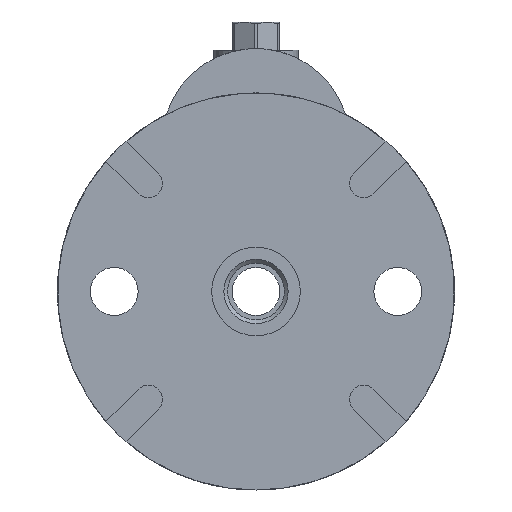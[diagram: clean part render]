
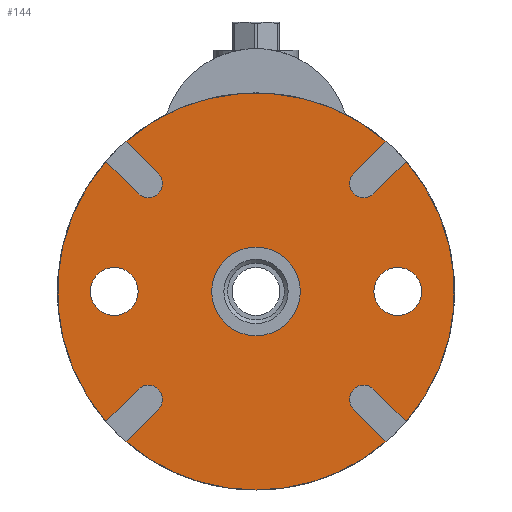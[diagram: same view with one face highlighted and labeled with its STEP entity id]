
A CAD part, front view. The second image highlights one B-rep face of the part: STEP entity #144.
In plain terms, the highlighted planar face has unit normal (0, -1, 0).
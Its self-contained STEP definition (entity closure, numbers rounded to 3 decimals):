
#144 = ADVANCED_FACE( '', ( #375, #376, #377, #378 ), #379, .T. );
#375 = FACE_OUTER_BOUND( '', #697, .T. );
#376 = FACE_BOUND( '', #698, .T. );
#377 = FACE_BOUND( '', #699, .T. );
#378 = FACE_BOUND( '', #700, .T. );
#379 = PLANE( '', #701 );
#697 = EDGE_LOOP( '', ( #1335, #1336, #1337, #1338, #1339, #1340, #1341, #1342, #1343, #1344, #1345, #1346, #1347, #1348, #1349, #1350 ) );
#698 = EDGE_LOOP( '', ( #1351 ) );
#699 = EDGE_LOOP( '', ( #1352 ) );
#700 = EDGE_LOOP( '', ( #1353 ) );
#701 = AXIS2_PLACEMENT_3D( '', #1354, #1355, #1356 );
#1335 = ORIENTED_EDGE( '', *, *, #2002, .F. );
#1336 = ORIENTED_EDGE( '', *, *, #2030, .T. );
#1337 = ORIENTED_EDGE( '', *, *, #1995, .F. );
#1338 = ORIENTED_EDGE( '', *, *, #1996, .T. );
#1339 = ORIENTED_EDGE( '', *, *, #1991, .F. );
#1340 = ORIENTED_EDGE( '', *, *, #2031, .T. );
#1341 = ORIENTED_EDGE( '', *, *, #2025, .F. );
#1342 = ORIENTED_EDGE( '', *, *, #2026, .T. );
#1343 = ORIENTED_EDGE( '', *, *, #2029, .F. );
#1344 = ORIENTED_EDGE( '', *, *, #2032, .T. );
#1345 = ORIENTED_EDGE( '', *, *, #2017, .F. );
#1346 = ORIENTED_EDGE( '', *, *, #2018, .T. );
#1347 = ORIENTED_EDGE( '', *, *, #2013, .F. );
#1348 = ORIENTED_EDGE( '', *, *, #2033, .T. );
#1349 = ORIENTED_EDGE( '', *, *, #2006, .F. );
#1350 = ORIENTED_EDGE( '', *, *, #2007, .T. );
#1351 = ORIENTED_EDGE( '', *, *, #2034, .T. );
#1352 = ORIENTED_EDGE( '', *, *, #2035, .F. );
#1353 = ORIENTED_EDGE( '', *, *, #2036, .F. );
#1354 = CARTESIAN_POINT( '', ( 12.5, 0., 0. ) );
#1355 = DIRECTION( '', ( 0., -1., 0. ) );
#1356 = DIRECTION( '', ( 0., 0., -1. ) );
#1991 = EDGE_CURVE( '', #2395, #2397, #2398, .T. );
#1995 = EDGE_CURVE( '', #2402, #2400, #2404, .T. );
#1996 = EDGE_CURVE( '', #2402, #2397, #2405, .T. );
#2002 = EDGE_CURVE( '', #2414, #2416, #2417, .T. );
#2006 = EDGE_CURVE( '', #2421, #2419, #2423, .T. );
#2007 = EDGE_CURVE( '', #2421, #2416, #2424, .T. );
#2013 = EDGE_CURVE( '', #2433, #2435, #2436, .T. );
#2017 = EDGE_CURVE( '', #2440, #2438, #2442, .T. );
#2018 = EDGE_CURVE( '', #2440, #2435, #2443, .T. );
#2025 = EDGE_CURVE( '', #2454, #2452, #2456, .T. );
#2026 = EDGE_CURVE( '', #2454, #2457, #2458, .T. );
#2029 = EDGE_CURVE( '', #2460, #2457, #2462, .T. );
#2030 = EDGE_CURVE( '', #2414, #2400, #2463, .T. );
#2031 = EDGE_CURVE( '', #2395, #2452, #2464, .T. );
#2032 = EDGE_CURVE( '', #2460, #2438, #2465, .T. );
#2033 = EDGE_CURVE( '', #2433, #2419, #2466, .T. );
#2034 = EDGE_CURVE( '', #2467, #2467, #2468, .F. );
#2035 = EDGE_CURVE( '', #2469, #2469, #2470, .T. );
#2036 = EDGE_CURVE( '', #2471, #2471, #2472, .T. );
#2395 = VERTEX_POINT( '', #3461 );
#2397 = VERTEX_POINT( '', #3464 );
#2398 = LINE( '', #3465, #3466 );
#2400 = VERTEX_POINT( '', #3469 );
#2402 = VERTEX_POINT( '', #3472 );
#2404 = LINE( '', #3475, #3476 );
#2405 = CIRCLE( '', #3477, 4. );
#2414 = VERTEX_POINT( '', #3488 );
#2416 = VERTEX_POINT( '', #3491 );
#2417 = LINE( '', #3492, #3493 );
#2419 = VERTEX_POINT( '', #3496 );
#2421 = VERTEX_POINT( '', #3499 );
#2423 = LINE( '', #3502, #3503 );
#2424 = CIRCLE( '', #3504, 4. );
#2433 = VERTEX_POINT( '', #3515 );
#2435 = VERTEX_POINT( '', #3518 );
#2436 = LINE( '', #3519, #3520 );
#2438 = VERTEX_POINT( '', #3523 );
#2440 = VERTEX_POINT( '', #3526 );
#2442 = LINE( '', #3529, #3530 );
#2443 = CIRCLE( '', #3531, 4. );
#2452 = VERTEX_POINT( '', #3542 );
#2454 = VERTEX_POINT( '', #3545 );
#2456 = LINE( '', #3548, #3549 );
#2457 = VERTEX_POINT( '', #3550 );
#2458 = CIRCLE( '', #3551, 4. );
#2460 = VERTEX_POINT( '', #3554 );
#2462 = LINE( '', #3557, #3558 );
#2463 = CIRCLE( '', #3559, 56. );
#2464 = CIRCLE( '', #3560, 56. );
#2465 = CIRCLE( '', #3561, 56. );
#2466 = CIRCLE( '', #3562, 56. );
#2467 = VERTEX_POINT( '', #3563 );
#2468 = CIRCLE( '', #3564, 6.75 );
#2469 = VERTEX_POINT( '', #3565 );
#2470 = CIRCLE( '', #3566, 12.5 );
#2471 = VERTEX_POINT( '', #3567 );
#2472 = CIRCLE( '', #3568, 6.75 );
#3461 = CARTESIAN_POINT( '', ( 36.668, 0., 42.325 ) );
#3464 = CARTESIAN_POINT( '', ( 27.577, 0., 33.234 ) );
#3465 = CARTESIAN_POINT( '', ( 38.086, 0., 43.743 ) );
#3466 = VECTOR( '', #4067, 1000. );
#3469 = CARTESIAN_POINT( '', ( 42.325, 0., 36.668 ) );
#3472 = CARTESIAN_POINT( '', ( 33.234, 0., 27.577 ) );
#3475 = CARTESIAN_POINT( '', ( 33.234, 0., 27.577 ) );
#3476 = VECTOR( '', #4071, 1000. );
#3477 = AXIS2_PLACEMENT_3D( '', #4072, #4073, #4074 );
#3488 = CARTESIAN_POINT( '', ( 42.325, 0., -36.668 ) );
#3491 = CARTESIAN_POINT( '', ( 33.234, 0., -27.577 ) );
#3492 = CARTESIAN_POINT( '', ( 43.743, 0., -38.086 ) );
#3493 = VECTOR( '', #4084, 1000. );
#3496 = CARTESIAN_POINT( '', ( 36.668, 0., -42.325 ) );
#3499 = CARTESIAN_POINT( '', ( 27.577, 0., -33.234 ) );
#3502 = CARTESIAN_POINT( '', ( 27.577, 0., -33.234 ) );
#3503 = VECTOR( '', #4088, 1000. );
#3504 = AXIS2_PLACEMENT_3D( '', #4089, #4090, #4091 );
#3515 = CARTESIAN_POINT( '', ( -36.668, 0., -42.325 ) );
#3518 = CARTESIAN_POINT( '', ( -27.577, 0., -33.234 ) );
#3519 = CARTESIAN_POINT( '', ( -38.086, 0., -43.743 ) );
#3520 = VECTOR( '', #4101, 1000. );
#3523 = CARTESIAN_POINT( '', ( -42.325, 0., -36.668 ) );
#3526 = CARTESIAN_POINT( '', ( -33.234, 0., -27.577 ) );
#3529 = CARTESIAN_POINT( '', ( -33.234, 0., -27.577 ) );
#3530 = VECTOR( '', #4105, 1000. );
#3531 = AXIS2_PLACEMENT_3D( '', #4106, #4107, #4108 );
#3542 = CARTESIAN_POINT( '', ( -36.668, 0., 42.325 ) );
#3545 = CARTESIAN_POINT( '', ( -27.577, 0., 33.234 ) );
#3548 = CARTESIAN_POINT( '', ( -27.577, 0., 33.234 ) );
#3549 = VECTOR( '', #4119, 1000. );
#3550 = CARTESIAN_POINT( '', ( -33.234, 0., 27.577 ) );
#3551 = AXIS2_PLACEMENT_3D( '', #4120, #4121, #4122 );
#3554 = CARTESIAN_POINT( '', ( -42.325, 0., 36.668 ) );
#3557 = CARTESIAN_POINT( '', ( -43.743, 0., 38.086 ) );
#3558 = VECTOR( '', #4125, 1000. );
#3559 = AXIS2_PLACEMENT_3D( '', #4126, #4127, #4128 );
#3560 = AXIS2_PLACEMENT_3D( '', #4129, #4130, #4131 );
#3561 = AXIS2_PLACEMENT_3D( '', #4132, #4133, #4134 );
#3562 = AXIS2_PLACEMENT_3D( '', #4135, #4136, #4137 );
#3563 = CARTESIAN_POINT( '', ( 40., 0., -6.75 ) );
#3564 = AXIS2_PLACEMENT_3D( '', #4138, #4139, #4140 );
#3565 = CARTESIAN_POINT( '', ( 0., 0., -12.5 ) );
#3566 = AXIS2_PLACEMENT_3D( '', #4141, #4142, #4143 );
#3567 = CARTESIAN_POINT( '', ( -40., 0., -6.75 ) );
#3568 = AXIS2_PLACEMENT_3D( '', #4144, #4145, #4146 );
#4067 = DIRECTION( '', ( -0.707, 0., -0.707 ) );
#4071 = DIRECTION( '', ( 0.707, 0., 0.707 ) );
#4072 = CARTESIAN_POINT( '', ( 30.406, 0., 30.406 ) );
#4073 = DIRECTION( '', ( 0., 1., 0. ) );
#4074 = DIRECTION( '', ( 1., 0., 0. ) );
#4084 = DIRECTION( '', ( -0.707, 0., 0.707 ) );
#4088 = DIRECTION( '', ( 0.707, 0., -0.707 ) );
#4089 = CARTESIAN_POINT( '', ( 30.406, 0., -30.406 ) );
#4090 = DIRECTION( '', ( 0., 1., 0. ) );
#4091 = DIRECTION( '', ( 1., 0., 0. ) );
#4101 = DIRECTION( '', ( 0.707, 0., 0.707 ) );
#4105 = DIRECTION( '', ( -0.707, 0., -0.707 ) );
#4106 = CARTESIAN_POINT( '', ( -30.406, 0., -30.406 ) );
#4107 = DIRECTION( '', ( 0., 1., 0. ) );
#4108 = DIRECTION( '', ( 1., 0., 0. ) );
#4119 = DIRECTION( '', ( -0.707, 0., 0.707 ) );
#4120 = CARTESIAN_POINT( '', ( -30.406, 0., 30.406 ) );
#4121 = DIRECTION( '', ( 0., 1., 0. ) );
#4122 = DIRECTION( '', ( 1., 0., 0. ) );
#4125 = DIRECTION( '', ( 0.707, 0., -0.707 ) );
#4126 = CARTESIAN_POINT( '', ( 0., 0., 0. ) );
#4127 = DIRECTION( '', ( 0., -1., 0. ) );
#4128 = DIRECTION( '', ( 0., 0., -1. ) );
#4129 = CARTESIAN_POINT( '', ( 0., 0., 0. ) );
#4130 = DIRECTION( '', ( 0., -1., 0. ) );
#4131 = DIRECTION( '', ( 0., 0., -1. ) );
#4132 = CARTESIAN_POINT( '', ( 0., 0., 0. ) );
#4133 = DIRECTION( '', ( 0., -1., 0. ) );
#4134 = DIRECTION( '', ( 0., 0., -1. ) );
#4135 = CARTESIAN_POINT( '', ( 0., 0., 0. ) );
#4136 = DIRECTION( '', ( 0., -1., 0. ) );
#4137 = DIRECTION( '', ( 0., 0., -1. ) );
#4138 = CARTESIAN_POINT( '', ( 40., 0., 0. ) );
#4139 = DIRECTION( '', ( 0., -1., 0. ) );
#4140 = DIRECTION( '', ( 0., 0., -1. ) );
#4141 = CARTESIAN_POINT( '', ( 0., 0., 0. ) );
#4142 = DIRECTION( '', ( 0., -1., 0. ) );
#4143 = DIRECTION( '', ( 0., 0., -1. ) );
#4144 = CARTESIAN_POINT( '', ( -40., 0., 0. ) );
#4145 = DIRECTION( '', ( 0., -1., 0. ) );
#4146 = DIRECTION( '', ( 0., 0., -1. ) );
